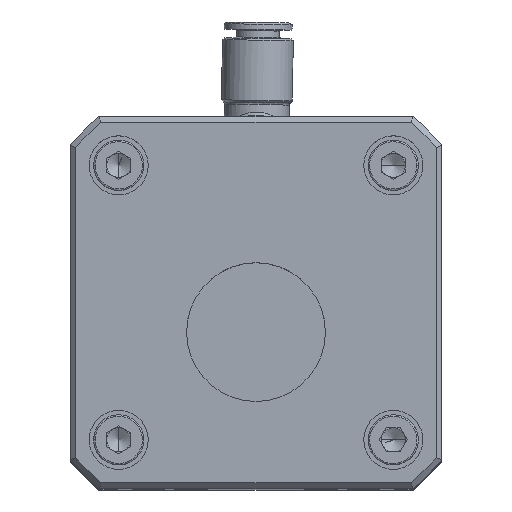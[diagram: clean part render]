
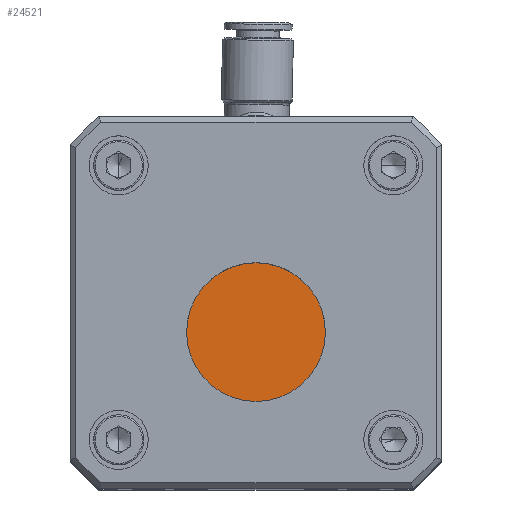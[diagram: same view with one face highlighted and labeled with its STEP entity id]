
A CAD part, top view. The second image highlights one B-rep face of the part: STEP entity #24521.
In plain terms, the highlighted planar face has unit normal (0, 0, 1).
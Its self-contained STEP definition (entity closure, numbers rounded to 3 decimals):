
#173 = ORIENTED_EDGE ( 'NONE', *, *, #8923, .T. ) ;
#3180 = CIRCLE ( 'NONE', #27693, 11.75 ) ;
#4011 = AXIS2_PLACEMENT_3D ( 'NONE', #5751, #21465, #25826 ) ;
#4451 = ORIENTED_EDGE ( 'NONE', *, *, #26734, .T. ) ;
#5751 = CARTESIAN_POINT ( 'NONE',  ( -30.4, -99.2, 40. ) ) ;
#7051 = DIRECTION ( 'NONE',  ( 0., 0., 1. ) ) ;
#7633 = FACE_OUTER_BOUND ( 'NONE', #11353, .T. ) ;
#8923 = EDGE_CURVE ( 'NONE', #9152, #28218, #3180, .T. ) ;
#9152 = VERTEX_POINT ( 'NONE', #24072 ) ;
#9953 = DIRECTION ( 'NONE',  ( 1., 0., 0. ) ) ;
#11353 = EDGE_LOOP ( 'NONE', ( #173, #4451 ) ) ;
#11597 = CARTESIAN_POINT ( 'NONE',  ( 0., -118., 40. ) ) ;
#15185 = CIRCLE ( 'NONE', #27023, 11.75 ) ;
#20357 = DIRECTION ( 'NONE',  ( 1., 0., 0. ) ) ;
#21465 = DIRECTION ( 'NONE',  ( 0., 0., 1. ) ) ;
#23227 = CARTESIAN_POINT ( 'NONE',  ( 0., -118., 40. ) ) ;
#23410 = DIRECTION ( 'NONE',  ( 0., 0., 1. ) ) ;
#23804 = PLANE ( 'NONE',  #4011 ) ;
#23850 = CARTESIAN_POINT ( 'NONE',  ( -11.75, -118., 40. ) ) ;
#24072 = CARTESIAN_POINT ( 'NONE',  ( 11.75, -118., 40. ) ) ;
#24521 = ADVANCED_FACE ( 'NONE', ( #7633 ), #23804, .T. ) ;
#25826 = DIRECTION ( 'NONE',  ( 1., 0., 0. ) ) ;
#26734 = EDGE_CURVE ( 'NONE', #28218, #9152, #15185, .T. ) ;
#27023 = AXIS2_PLACEMENT_3D ( 'NONE', #11597, #7051, #20357 ) ;
#27693 = AXIS2_PLACEMENT_3D ( 'NONE', #23227, #23410, #9953 ) ;
#28218 = VERTEX_POINT ( 'NONE', #23850 ) ;
